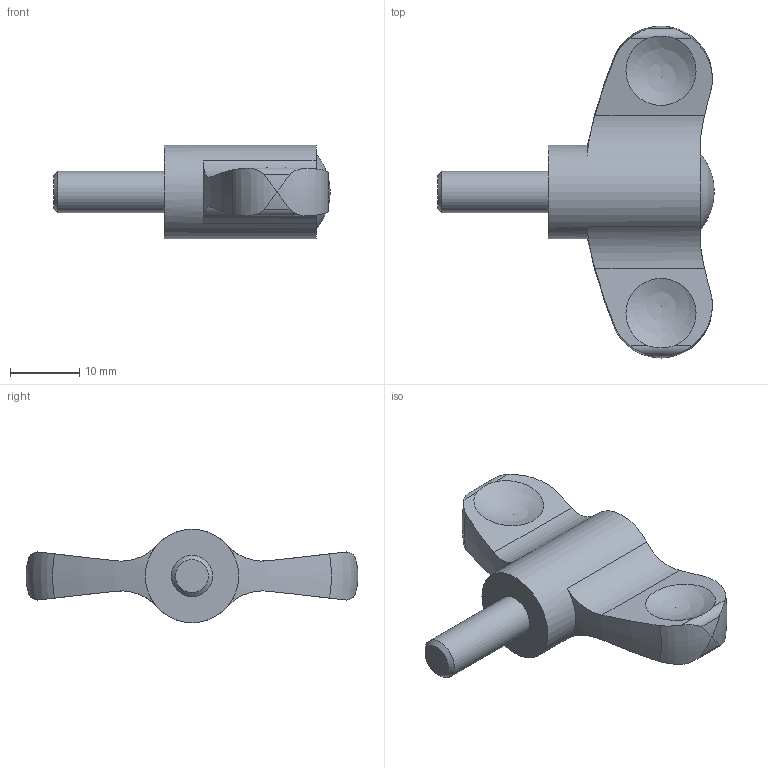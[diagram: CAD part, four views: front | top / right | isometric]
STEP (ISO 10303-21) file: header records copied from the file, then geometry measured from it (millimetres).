
FILE_DESCRIPTION( ( 'STEP AP203' ), '1' );
FILE_NAME( 'C:/Temp/Ganter_Step_05_03_2020/data/2_2/gn_633/Wing nut GN 633-48-M6-16-DSG.stp', '2020-03-05T12:20:36', ( 'License CC BY-ND 4.0' ), ( 'CADENAS' ), ' ', 'PARTsolutions', ' ' );
FILE_SCHEMA( ( 'CONFIG_CONTROL_DESIGN' ) );
Length unit declared in the file: millimetre
Products named in the file (1): _Wing nut GN 633-48-M6-16-DSG
Bounding box: 40 x 48 x 13.5 mm (x, y, z)
Volume: 6142.6 mm3; surface area: 2842.8 mm2
Topology: 1 solids, 1 shells, 33 faces, 102 edges, 68 vertices
Faces by surface type: cylinder 14, sphere 7, plane 7, bspline 2, torus 2, cone 1
Full cylindrical faces by diameter (mm): 6 x1, 13.5 x1
Entity records: 1450 total; most frequent: CARTESIAN_POINT 638, ORIENTED_EDGE 166, DIRECTION 138, EDGE_CURVE 83, VERTEX_POINT 63, AXIS2_PLACEMENT_3D 59, EDGE_LOOP 38, B_SPLINE_CURVE_WITH_KNOTS 36
